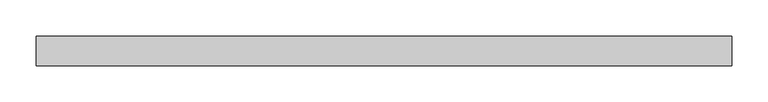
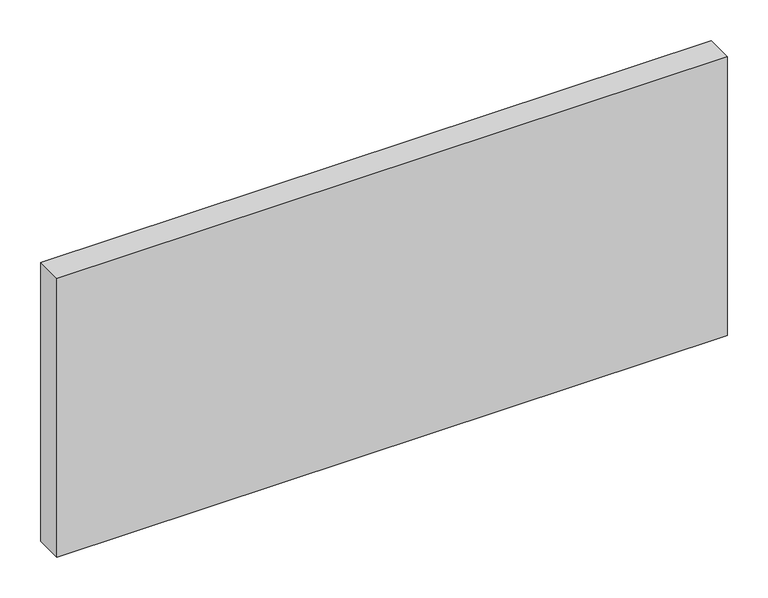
"""IFC4 building model written with IfcOpenShell, lengths in millimetres: plate geometry, Panneau système : Vitre 4cm."""

from ifc_helpers import new_model, si_unit, origin, origin_with_axes, place, context, project, spatial, polyline, outline, extrude, source, transform, mapped, element, save


def plate_546ec413(model_context):
    return source(origin(), model_context, "Body", "SweptSolid", [
        extrude(outline(polyline([(477.4516975, -20.0), (-477.4516975, -20.0), (-477.4516975, 20.0), (477.4516975, 20.0), (477.4516975, -20.0)])), origin_with_axes(), (0.0, 0.0, 1.0), 420.0),
    ])


if __name__ == "__main__":
    model = new_model("IFC4")
    model_context = context("Model", 3, world=origin())
    ifc_project = project(units=[si_unit("LENGTHUNIT", "METRE", prefix="MILLI")], contexts=[model_context])
    site = spatial("IfcSite", under=ifc_project)
    building = spatial("IfcBuilding", under=site)
    placement = place(None, origin())
    plate_shape = plate_546ec413(model_context)
    element("IfcPlate", 1, ObjectType="Panneau système : Vitre 4cm", at=placement, inside=building, context=model_context, shape_type="MappedRepresentation", body=[
        mapped(plate_shape, transform((0.0, 0.0, 0.0), x_axis=(1.0, 0.0, 0.0), y_axis=(0.0, 1.0, 0.0), z_axis=(0.0, 0.0, 1.0))),
    ])
    save(model, "model.ifc")
